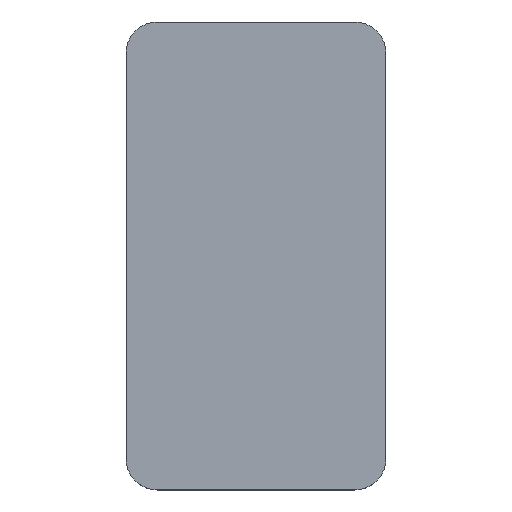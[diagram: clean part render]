
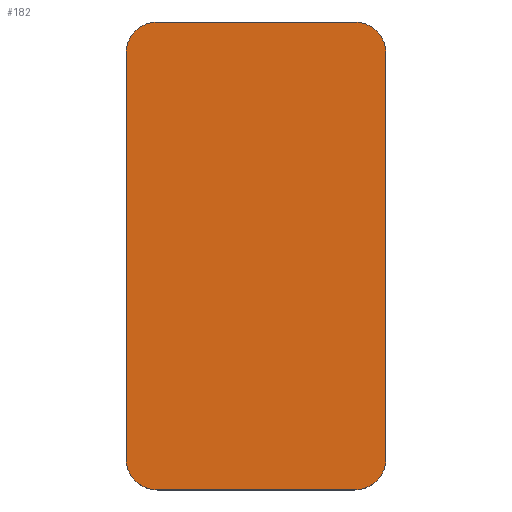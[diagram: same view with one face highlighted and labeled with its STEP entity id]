
A CAD part, top view. The second image highlights one B-rep face of the part: STEP entity #182.
In plain terms, the highlighted planar face has unit normal (0, 0, 1).
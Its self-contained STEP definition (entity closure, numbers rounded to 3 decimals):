
#16=CIRCLE('',#200,0.3);
#18=CIRCLE('',#204,0.3);
#20=CIRCLE('',#208,0.3);
#22=CIRCLE('',#212,0.3);
#36=FACE_OUTER_BOUND('',#46,.T.);
#46=EDGE_LOOP('',(#159,#160,#161,#162,#163,#164,#165,#166));
#48=LINE('',#275,#64);
#54=LINE('',#290,#70);
#58=LINE('',#302,#74);
#61=LINE('',#313,#77);
#64=VECTOR('',#220,1.);
#70=VECTOR('',#234,1.);
#74=VECTOR('',#246,1.);
#77=VECTOR('',#257,1.);
#80=VERTEX_POINT('',#272);
#81=VERTEX_POINT('',#274);
#84=VERTEX_POINT('',#282);
#86=VERTEX_POINT('',#288);
#88=VERTEX_POINT('',#294);
#90=VERTEX_POINT('',#300);
#92=VERTEX_POINT('',#306);
#94=VERTEX_POINT('',#311);
#96=EDGE_CURVE('',#80,#81,#48,.T.);
#101=EDGE_CURVE('',#80,#84,#16,.T.);
#104=EDGE_CURVE('',#84,#86,#54,.T.);
#107=EDGE_CURVE('',#86,#88,#18,.T.);
#110=EDGE_CURVE('',#88,#90,#58,.T.);
#113=EDGE_CURVE('',#90,#92,#20,.T.);
#115=EDGE_CURVE('',#94,#92,#61,.T.);
#118=EDGE_CURVE('',#94,#81,#22,.T.);
#159=ORIENTED_EDGE('',*,*,#96,.F.);
#160=ORIENTED_EDGE('',*,*,#101,.T.);
#161=ORIENTED_EDGE('',*,*,#104,.T.);
#162=ORIENTED_EDGE('',*,*,#107,.T.);
#163=ORIENTED_EDGE('',*,*,#110,.T.);
#164=ORIENTED_EDGE('',*,*,#113,.T.);
#165=ORIENTED_EDGE('',*,*,#115,.F.);
#166=ORIENTED_EDGE('',*,*,#118,.T.);
#172=PLANE('',#214);
#182=ADVANCED_FACE('',(#36),#172,.T.);
#200=AXIS2_PLACEMENT_3D('',#284,#228,#229);
#204=AXIS2_PLACEMENT_3D('',#296,#240,#241);
#208=AXIS2_PLACEMENT_3D('',#308,#252,#253);
#212=AXIS2_PLACEMENT_3D('',#317,#263,#264);
#214=AXIS2_PLACEMENT_3D('',#319,#267,#268);
#220=DIRECTION('',(0.,1.,0.));
#228=DIRECTION('center_axis',(0.,0.,1.));
#229=DIRECTION('ref_axis',(1.,0.,0.));
#234=DIRECTION('',(1.,0.,0.));
#240=DIRECTION('center_axis',(0.,0.,1.));
#241=DIRECTION('ref_axis',(1.,0.,0.));
#246=DIRECTION('',(0.,1.,0.));
#252=DIRECTION('center_axis',(0.,0.,1.));
#253=DIRECTION('ref_axis',(1.,0.,0.));
#257=DIRECTION('',(1.,0.,0.));
#263=DIRECTION('center_axis',(0.,0.,1.));
#264=DIRECTION('ref_axis',(1.,0.,0.));
#267=DIRECTION('center_axis',(0.,0.,1.));
#268=DIRECTION('ref_axis',(1.,0.,0.));
#272=CARTESIAN_POINT('',(-28.25,-35.65,-14.301));
#274=CARTESIAN_POINT('',(-28.25,-31.75,-14.301));
#275=CARTESIAN_POINT('',(-28.25,-33.7,-14.301));
#282=CARTESIAN_POINT('',(-27.95,-35.95,-14.301));
#284=CARTESIAN_POINT('Origin',(-27.95,-35.65,-14.301));
#288=CARTESIAN_POINT('',(-26.05,-35.95,-14.301));
#290=CARTESIAN_POINT('',(-27.,-35.95,-14.301));
#294=CARTESIAN_POINT('',(-25.75,-35.65,-14.301));
#296=CARTESIAN_POINT('Origin',(-26.05,-35.65,-14.301));
#300=CARTESIAN_POINT('',(-25.75,-31.75,-14.301));
#302=CARTESIAN_POINT('',(-25.75,-33.7,-14.301));
#306=CARTESIAN_POINT('',(-26.05,-31.45,-14.301));
#308=CARTESIAN_POINT('Origin',(-26.05,-31.75,-14.301));
#311=CARTESIAN_POINT('',(-27.95,-31.45,-14.301));
#313=CARTESIAN_POINT('',(-27.,-31.45,-14.301));
#317=CARTESIAN_POINT('Origin',(-27.95,-31.75,-14.301));
#319=CARTESIAN_POINT('Origin',(-27.,-33.7,-14.301));
